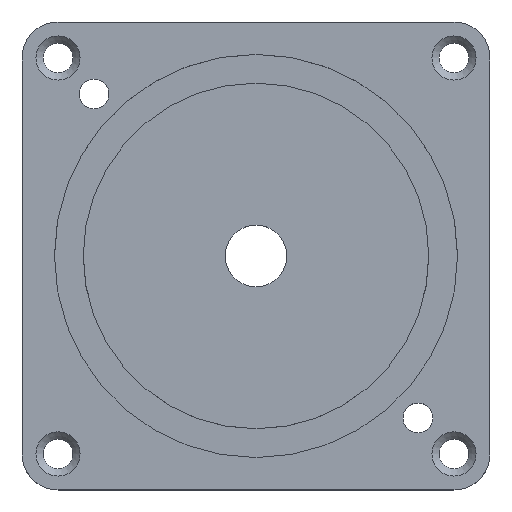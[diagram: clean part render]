
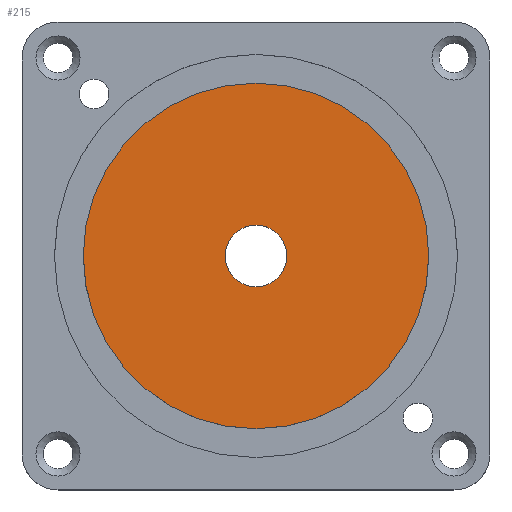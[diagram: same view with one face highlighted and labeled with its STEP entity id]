
A CAD part, top view. The second image highlights one B-rep face of the part: STEP entity #215.
In plain terms, the highlighted planar face has unit normal (0, 0, 1).
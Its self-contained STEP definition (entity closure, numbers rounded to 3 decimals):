
#215=ADVANCED_FACE('',(#475,#477),#479,.T.);
#475=FACE_BOUND('',#476,.T.);
#476=EDGE_LOOP('',(#643));
#477=FACE_BOUND('',#478,.T.);
#478=EDGE_LOOP('',(#644));
#479=PLANE('',#480);
#480=AXIS2_PLACEMENT_3D('',#481,#482,#483);
#481=CARTESIAN_POINT('',(0.,0.,6.));
#482=DIRECTION('',(0.,0.,1.));
#483=DIRECTION('',(-1.,0.,0.));
#643=ORIENTED_EDGE('',*,*,#710,.T.);
#644=ORIENTED_EDGE('',*,*,#703,.T.);
#703=EDGE_CURVE('',#784,#784,#785,.T.);
#710=EDGE_CURVE('',#798,#798,#799,.T.);
#784=VERTEX_POINT('',#978);
#785=CIRCLE('',#979,4.283);
#798=VERTEX_POINT('',#1013);
#799=CIRCLE('',#1014,24.);
#978=CARTESIAN_POINT('',(4.283,0.,6.));
#979=AXIS2_PLACEMENT_3D('',#980,#981,#982);
#980=CARTESIAN_POINT('',(0.,0.,6.));
#981=DIRECTION('',(0.,0.,-1.));
#982=DIRECTION('',(1.,0.,0.));
#1013=CARTESIAN_POINT('',(24.,0.,6.));
#1014=AXIS2_PLACEMENT_3D('',#1015,#1016,#1017);
#1015=CARTESIAN_POINT('',(0.,0.,6.));
#1016=DIRECTION('',(0.,0.,1.));
#1017=DIRECTION('',(1.,0.,0.));
